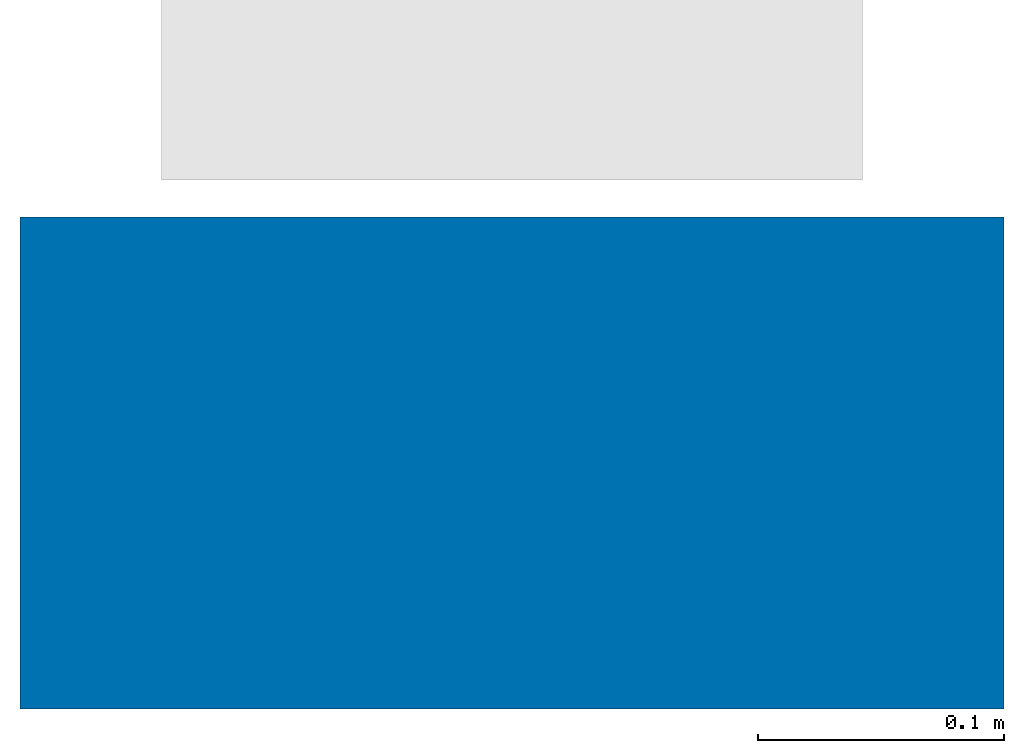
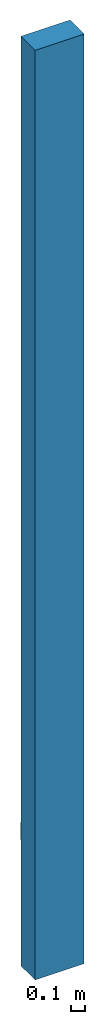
# One storey, part 1 of 2: 1 wall.
"""IFC2X3 building model written with IfcOpenShell, lengths in millimetres."""

import ifcopenshell
import ifcopenshell.guid

model = None  # the IFC model being written
_history = None  # IfcOwnerHistory: only IFC2X3 demands one
_inside = {}  # id of a spatial element -> (the spatial element, [elements in it])
_under = {}  # id of a project, library or spatial element -> (it, [spatial elements below it])
_declared = {}  # id of a project -> (the project, [libraries it declares])
_typed = {}  # id of a type object -> (the type object, [elements of that type])
_made_of = {}  # id of a material, layer set ... -> (it, [elements and type objects made of it])


def new_model(schema):
    """Start an empty IFC model of exactly this schema.

    Asked for "IFC4X3", IfcOpenShell would pick the latest addendum, in which some entities
    have other attributes; the version numbers below select the first issue.
    IFC2X3 requires an IfcOwnerHistory on every rooted entity: one is made here for all.
    """
    global model, _history
    if schema == "IFC4X3":
        model = ifcopenshell.file(schema_version=(4, 3, 0, 0))
    else:
        model = ifcopenshell.file(schema=schema)
    _inside.clear()
    _under.clear()
    _declared.clear()
    _typed.clear()
    _made_of.clear()
    _history = None
    if model.schema == "IFC2X3":
        org = make("IfcOrganization", Name="unknown")
        user = make(
            "IfcPersonAndOrganization",
            ThePerson=make("IfcPerson", FamilyName="unknown"),
            TheOrganization=org,
        )
        app = make(
            "IfcApplication",
            ApplicationDeveloper=org,
            Version="unknown",
            ApplicationFullName="unknown",
            ApplicationIdentifier="unknown",
        )
        _history = make(
            "IfcOwnerHistory",
            OwningUser=user,
            OwningApplication=app,
            ChangeAction="ADDED",
            CreationDate=0,
        )
    return model


def make(cls, **values):
    """One entity of the class cls with the attributes given. An attribute that is None is left unset."""
    return model.create_entity(
        cls, **{name: value for name, value in values.items() if value is not None}
    )


def entity(cls, *values):
    """Any entity or typed value of the class cls, its attributes in the order of the schema. None: left unset."""
    e = model.create_entity(cls)
    for i, value in enumerate(values):
        if value is not None:
            e[i] = value
    return e


def rooted(cls, **values):
    """An entity with a GlobalId (a new one), such as an element, a storey or a relation."""
    return make(cls, GlobalId=ifcopenshell.guid.new(), OwnerHistory=_history, **values)


def si_unit(unit_type, name, prefix=None):
    """IfcSIUnit, for example si_unit("LENGTHUNIT", "METRE", prefix="MILLI")."""
    return make("IfcSIUnit", UnitType=unit_type, Prefix=prefix, Name=name)


def converted_unit(unit_type, name, factor, base, dimensions=None, offset=None):
    """IfcConversionBasedUnit, such as the inch: factor (a typed value) times the base unit."""
    return make(
        "IfcConversionBasedUnit"
        if offset is None
        else "IfcConversionBasedUnitWithOffset",
        ConversionOffset=offset,
        Dimensions=None
        if dimensions is None
        else entity("IfcDimensionalExponents", *dimensions),
        UnitType=unit_type,
        Name=name,
        ConversionFactor=make(
            "IfcMeasureWithUnit", ValueComponent=factor, UnitComponent=base
        ),
    )


def derived_unit(unit_type, elements):
    """IfcDerivedUnit: a product of units, each with its exponent."""
    return make(
        "IfcDerivedUnit",
        Elements=[
            make("IfcDerivedUnitElement", Unit=unit, Exponent=power)
            for unit, power in elements
        ],
        UnitType=unit_type,
    )


def assignment(units):
    """IfcUnitAssignment: the units of a project."""
    return None if units is None else make("IfcUnitAssignment", Units=units)


def point(xyz):
    """IfcCartesianPoint."""
    return None if xyz is None else make("IfcCartesianPoint", Coordinates=xyz)


def direction(xyz):
    """IfcDirection."""
    return None if xyz is None else make("IfcDirection", DirectionRatios=xyz)


def frame(location, z_axis=None, x_axis=None):
    """IfcAxis2Placement3D, a coordinate frame: its origin and axes. An axis left out is left unset."""
    return make(
        "IfcAxis2Placement3D",
        Location=point(location),
        Axis=direction(z_axis),
        RefDirection=direction(x_axis),
    )


def frame_2d(location, x_axis=None):
    """IfcAxis2Placement2D, a coordinate frame in the plane: its origin and x axis."""
    return make(
        "IfcAxis2Placement2D", Location=point(location), RefDirection=direction(x_axis)
    )


def origin():
    """The frame at (0, 0, 0) with its axes left unset."""
    return frame((0.0, 0.0, 0.0))


def place(relative_to, where):
    """IfcLocalPlacement: puts the frame where relative to a parent placement (None: the world)."""
    return make(
        "IfcLocalPlacement", PlacementRelTo=relative_to, RelativePlacement=where
    )


def context(
    kind, dimensions, precision=None, world=None, true_north=None, identifier=None
):
    """IfcGeometricRepresentationContext, for example the 3D "Model" context."""
    return make(
        "IfcGeometricRepresentationContext",
        ContextIdentifier=identifier,
        ContextType=kind,
        CoordinateSpaceDimension=dimensions,
        Precision=precision,
        WorldCoordinateSystem=world,
        TrueNorth=true_north,
    )


def subcontext(parent, identifier, kind, view, scale=None):
    """IfcGeometricRepresentationSubContext, for example "Body" below "Model"."""
    return make(
        "IfcGeometricRepresentationSubContext",
        ContextIdentifier=identifier,
        ContextType=kind,
        ParentContext=parent,
        TargetScale=scale,
        TargetView=view,
    )


def project(units=None, contexts=None):
    """IfcProject with its units and contexts."""
    return rooted(
        "IfcProject",
        Name="project",
        RepresentationContexts=contexts,
        UnitsInContext=assignment(units),
    )


def spatial(cls, under=None, at=None, **own):
    """A site, building, storey or space (cls), placed at a placement, below another one or the project."""
    s = rooted(cls, ObjectPlacement=at, **own)
    if under is not None:
        _under.setdefault(under.id(), (under, []))[1].append(s)
    return s


def profile(cls, at=None, kind="AREA", **sizes):
    """A parametric profile (cls). Its sizes go by their IFC names, for example OverallWidth=200.0."""
    return make(cls, ProfileType=kind, Position=at, **sizes)


def rectangle(**sizes):
    """IfcRectangleProfileDef."""
    return profile("IfcRectangleProfileDef", **sizes)


def extrude(swept, where, along, depth):
    """IfcExtrudedAreaSolid: the profile swept, set in the frame where, extruded along a direction by depth."""
    return make(
        "IfcExtrudedAreaSolid",
        SweptArea=swept,
        Position=where,
        ExtrudedDirection=direction(along),
        Depth=depth,
    )


def shape(context_of_items, identifier, shape_type, items):
    """IfcShapeRepresentation: the items that make up one representation, for example the "Body"."""
    return make(
        "IfcShapeRepresentation",
        ContextOfItems=context_of_items,
        RepresentationIdentifier=identifier,
        RepresentationType=shape_type,
        Items=items,
    )


def material(Name=None, Category=None):
    """IfcMaterial."""
    return make("IfcMaterial", Name=Name, Category=Category)


def layer(
    of_material, thickness, ventilated=None, Name=None, Category=None, Priority=None
):
    """IfcMaterialLayer: one layer of a wall or slab, of a material (None: an air gap)."""
    return make(
        "IfcMaterialLayer",
        Material=of_material,
        LayerThickness=thickness,
        IsVentilated=ventilated,
        Name=Name,
        Category=Category,
        Priority=Priority,
    )


def layer_set(layers, Name=None):
    """IfcMaterialLayerSet."""
    return make("IfcMaterialLayerSet", MaterialLayers=layers, LayerSetName=Name)


def layer_usage(for_layer_set, set_direction, sense, offset, extent=None):
    """IfcMaterialLayerSetUsage: how a layer set lies in its element."""
    return make(
        "IfcMaterialLayerSetUsage",
        ForLayerSet=for_layer_set,
        LayerSetDirection=set_direction,
        DirectionSense=sense,
        OffsetFromReferenceLine=offset,
        ReferenceExtent=extent,
    )


def made_of(thing, what):
    """Note that an element or type object is made of a material, layer set ...; save() writes the relation."""
    if what is not None:
        _made_of.setdefault(what.id(), (what, []))[1].append(thing)
    return thing


def type_object(cls, material=None, **own):
    """A type object (cls), such as IfcWallType, which elements share."""
    return made_of(rooted(cls, **own), material)


def element(
    cls,
    number,
    at=None,
    inside=None,
    cuts=None,
    type_object=None,
    material=None,
    context=None,
    identifier="Body",
    shape_type=None,
    held_by="IfcProductDefinitionShape",
    body=None,
    shapes=None,
    **own,
):
    """One element of the class cls, such as IfcWall. Its Tag is "e" and its number.

    at: its placement. inside: the storey or other place that contains it. cuts: it is an
    opening in that element (IfcRelVoidsElement). A single representation is given by context,
    identifier, shape_type and body (its items); several are given by shapes. held_by: the class
    of the entity that holds the representations. save() writes the other relations.
    """
    e = rooted(cls, Tag="e%d" % number, ObjectPlacement=at, **own)
    if body is not None:
        shapes = [shape(context, identifier, shape_type, body)]
    if shapes is not None:
        e.Representation = make(held_by, Representations=shapes)
    if inside is not None:
        _inside.setdefault(inside.id(), (inside, []))[1].append(e)
    if cuts is not None:
        rooted(
            "IfcRelVoidsElement", RelatingBuildingElement=cuts, RelatedOpeningElement=e
        )
    if type_object is not None:
        _typed.setdefault(type_object.id(), (type_object, []))[1].append(e)
    return made_of(e, material)


def aggregate(whole, parts):
    """IfcRelAggregates: a whole, such as a stair, and the parts it consists of."""
    return rooted("IfcRelAggregates", RelatingObject=whole, RelatedObjects=parts)


def save(model, path):
    """Write the relations noted so far, then the file.

    IfcRelAggregates (storeys below a building ...), IfcRelContainedInSpatialStructure (elements
    in a storey), IfcRelDefinesByType, IfcRelAssociatesMaterial and IfcRelDeclares: one each for
    every whole, place, type object, material and project.
    """
    for whole, parts in _under.values():
        aggregate(whole, parts)
    for where, things in _inside.values():
        rooted(
            "IfcRelContainedInSpatialStructure",
            RelatedElements=things,
            RelatingStructure=where,
        )
    for kind, things in _typed.values():
        rooted("IfcRelDefinesByType", RelatedObjects=things, RelatingType=kind)
    for what, things in _made_of.values():
        rooted("IfcRelAssociatesMaterial", RelatedObjects=things, RelatingMaterial=what)
    for by, libraries in _declared.values():
        rooted("IfcRelDeclares", RelatingContext=by, RelatedDefinitions=libraries)
    model.write(path)


model = new_model("IFC2X3")

# Units and contexts
model_context = context("Model", 3, precision=0.01, world=origin(), true_north=direction((6.12303176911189e-17, 1.0)))
context_of_model = context(None, 3, precision=0.01, world=origin(), true_north=direction((6.12303176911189e-17, 1.0)))
body_context = subcontext(model_context, "Body", "Model", "MODEL_VIEW")
ifc_project = project(units=[si_unit("LENGTHUNIT", "METRE", prefix="MILLI"), si_unit("AREAUNIT", "SQUARE_METRE"), si_unit("VOLUMEUNIT", "CUBIC_METRE"), converted_unit("PLANEANGLEUNIT", "DEGREE", entity("IfcRatioMeasure", 0.0174532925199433), si_unit("PLANEANGLEUNIT", "RADIAN"), dimensions=[0, 0, 0, 0, 0, 0, 0]), si_unit("MASSUNIT", "GRAM", prefix="KILO"), si_unit("TIMEUNIT", "SECOND"), si_unit("FREQUENCYUNIT", "HERTZ"), si_unit("THERMODYNAMICTEMPERATUREUNIT", "DEGREE_CELSIUS"), derived_unit("THERMALTRANSMITTANCEUNIT", [(si_unit("MASSUNIT", "GRAM", prefix="KILO"), 1), (si_unit("THERMODYNAMICTEMPERATUREUNIT", "KELVIN"), -1), (si_unit("TIMEUNIT", "SECOND"), -3)]), derived_unit("VOLUMETRICFLOWRATEUNIT", [(si_unit("LENGTHUNIT", "METRE"), 3), (si_unit("TIMEUNIT", "SECOND"), -1)]), si_unit("ELECTRICCURRENTUNIT", "AMPERE"), si_unit("ELECTRICVOLTAGEUNIT", "VOLT"), si_unit("POWERUNIT", "WATT"), si_unit("FORCEUNIT", "NEWTON", prefix="KILO"), si_unit("ILLUMINANCEUNIT", "LUX"), si_unit("LUMINOUSFLUXUNIT", "LUMEN"), si_unit("LUMINOUSINTENSITYUNIT", "CANDELA"), si_unit("PRESSUREUNIT", "PASCAL")], contexts=[model_context, context_of_model])

# Site, building, storey
site_placement = place(None, origin())
site = spatial("IfcSite", under=ifc_project, at=site_placement, Name="Default", CompositionType="ELEMENT")
building_placement = place(site_placement, origin())
building = spatial("IfcBuilding", under=site, at=building_placement, CompositionType="ELEMENT")
storey_placement = place(building_placement, origin())
storey = spatial("IfcBuildingStorey", under=building, at=storey_placement, Name="Level 1", CompositionType="ELEMENT", Elevation=0.0)

# Wall
ifc_material = material(Name="Default Wall")
ifc_layer = layer(ifc_material, 200.0)
ifc_layer_set = layer_set([ifc_layer], Name="Basic Wall:Generic - 200mm")
ifc_layer_usage = layer_usage(ifc_layer_set, "AXIS2", "NEGATIVE", 100.0)
wall_type = type_object("IfcWallType", Name="Basic Wall:Generic - 200mm", PredefinedType="STANDARD", material=ifc_layer_set)
wall_placement = place(storey_placement, frame((86.86361303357, -567.252426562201, 0.0)))
element("IfcWallStandardCase", 1, at=wall_placement, inside=storey, type_object=wall_type, material=ifc_layer_usage, Name="Basic Wall:Generic - 200mm", ObjectType="Basic Wall:Generic - 200mm:249", context=body_context, shape_type="SweptSolid", body=[
    extrude(rectangle(XDim=400.0, YDim=200.0, at=frame_2d((200.0, 0.0), x_axis=(-1.0, 0.0))), origin(), (0.0, 0.0, 1.0), 8000.0),
])

save(model, "model.ifc")
